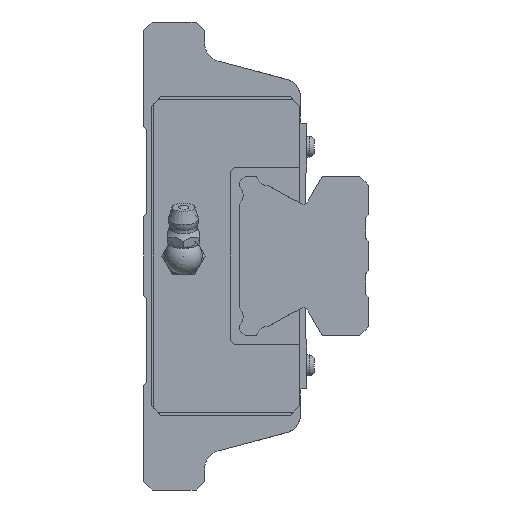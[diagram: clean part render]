
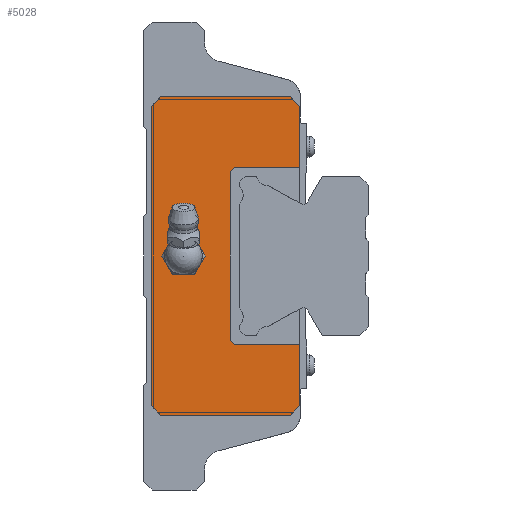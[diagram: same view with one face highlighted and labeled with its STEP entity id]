
A CAD part, left-side view. The second image highlights one B-rep face of the part: STEP entity #5028.
In plain terms, the highlighted planar face has unit normal (-1, 0, 0).
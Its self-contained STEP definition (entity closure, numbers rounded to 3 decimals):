
#118=LINE('',#7606,#582);
#133=LINE('',#7637,#597);
#140=LINE('',#7651,#604);
#144=LINE('',#7658,#608);
#152=LINE('',#7675,#616);
#155=LINE('',#7680,#619);
#163=LINE('',#7692,#627);
#196=LINE('',#7760,#660);
#202=LINE('',#7773,#666);
#345=LINE('',#8158,#809);
#346=LINE('',#8161,#810);
#347=LINE('',#8162,#811);
#348=LINE('',#8164,#812);
#349=LINE('',#8166,#813);
#582=VECTOR('',#5967,1000.);
#597=VECTOR('',#5984,1000.);
#604=VECTOR('',#5995,1000.);
#608=VECTOR('',#6001,1000.);
#616=VECTOR('',#6011,1000.);
#619=VECTOR('',#6016,1000.);
#627=VECTOR('',#6032,1000.);
#660=VECTOR('',#6083,1000.);
#666=VECTOR('',#6091,1000.);
#809=VECTOR('',#6414,1000.);
#810=VECTOR('',#6415,1000.);
#811=VECTOR('',#6416,1000.);
#812=VECTOR('',#6417,1000.);
#813=VECTOR('',#6418,1000.);
#1062=PLANE('',#5411);
#1350=CIRCLE('',#5412,3.);
#2137=ORIENTED_EDGE('',*,*,#3298,.T.);
#2138=ORIENTED_EDGE('',*,*,#3299,.T.);
#2139=ORIENTED_EDGE('',*,*,#3300,.T.);
#2140=ORIENTED_EDGE('',*,*,#3110,.F.);
#2141=ORIENTED_EDGE('',*,*,#3056,.F.);
#2142=ORIENTED_EDGE('',*,*,#3052,.F.);
#2143=ORIENTED_EDGE('',*,*,#3045,.F.);
#2144=ORIENTED_EDGE('',*,*,#3075,.F.);
#2145=ORIENTED_EDGE('',*,*,#3030,.F.);
#2146=ORIENTED_EDGE('',*,*,#3067,.F.);
#2147=ORIENTED_EDGE('',*,*,#3064,.F.);
#2148=ORIENTED_EDGE('',*,*,#3116,.F.);
#2149=ORIENTED_EDGE('',*,*,#3301,.T.);
#2150=ORIENTED_EDGE('',*,*,#3302,.T.);
#2151=ORIENTED_EDGE('',*,*,#3303,.T.);
#3030=EDGE_CURVE('',#3718,#3719,#118,.T.);
#3045=EDGE_CURVE('',#3733,#3734,#133,.T.);
#3052=EDGE_CURVE('',#3734,#3739,#140,.T.);
#3056=EDGE_CURVE('',#3739,#3741,#144,.T.);
#3064=EDGE_CURVE('',#3748,#3749,#152,.T.);
#3067=EDGE_CURVE('',#3749,#3718,#155,.T.);
#3075=EDGE_CURVE('',#3719,#3733,#163,.T.);
#3110=EDGE_CURVE('',#3741,#3776,#196,.T.);
#3116=EDGE_CURVE('',#3781,#3748,#202,.T.);
#3298=EDGE_CURVE('',#3911,#3911,#1350,.T.);
#3299=EDGE_CURVE('',#3912,#3913,#345,.T.);
#3300=EDGE_CURVE('',#3913,#3776,#346,.T.);
#3301=EDGE_CURVE('',#3781,#3914,#347,.T.);
#3302=EDGE_CURVE('',#3914,#3915,#348,.T.);
#3303=EDGE_CURVE('',#3915,#3912,#349,.T.);
#3718=VERTEX_POINT('',#7605);
#3719=VERTEX_POINT('',#7607);
#3733=VERTEX_POINT('',#7636);
#3734=VERTEX_POINT('',#7638);
#3739=VERTEX_POINT('',#7652);
#3741=VERTEX_POINT('',#7659);
#3748=VERTEX_POINT('',#7674);
#3749=VERTEX_POINT('',#7676);
#3776=VERTEX_POINT('',#7761);
#3781=VERTEX_POINT('',#7772);
#3911=VERTEX_POINT('',#8157);
#3912=VERTEX_POINT('',#8159);
#3913=VERTEX_POINT('',#8160);
#3914=VERTEX_POINT('',#8163);
#3915=VERTEX_POINT('',#8165);
#4297=EDGE_LOOP('',(#2137));
#4298=EDGE_LOOP('',(#2138,#2139,#2140,#2141,#2142,#2143,#2144,#2145,#2146,
#2147,#2148,#2149,#2150,#2151));
#4666=FACE_BOUND('',#4297,.T.);
#4667=FACE_BOUND('',#4298,.T.);
#5028=ADVANCED_FACE('',(#4666,#4667),#1062,.F.);
#5411=AXIS2_PLACEMENT_3D('',#8155,#6410,#6411);
#5412=AXIS2_PLACEMENT_3D('',#8156,#6412,#6413);
#5967=DIRECTION('',(0.,0.707,0.707));
#5984=DIRECTION('',(0.,-0.707,0.707));
#5995=DIRECTION('',(0.,-1.,0.));
#6001=DIRECTION('',(0.,-0.707,-0.707));
#6011=DIRECTION('',(0.,0.707,-0.707));
#6016=DIRECTION('',(0.,1.,0.));
#6032=DIRECTION('',(0.,0.,1.));
#6083=DIRECTION('',(0.,0.,-1.));
#6091=DIRECTION('',(0.,0.,-1.));
#6410=DIRECTION('',(1.,0.,0.));
#6411=DIRECTION('',(0.,0.,-1.));
#6412=DIRECTION('',(1.,0.,0.));
#6413=DIRECTION('',(0.,0.,-1.));
#6414=DIRECTION('',(0.,-0.707,0.707));
#6415=DIRECTION('',(0.,-1.,0.));
#6416=DIRECTION('',(0.,1.,0.));
#6417=DIRECTION('',(0.,0.707,0.707));
#6418=DIRECTION('',(0.,0.,1.));
#7605=CARTESIAN_POINT('',(-36.8,32.9,-34.));
#7606=CARTESIAN_POINT('',(-36.8,32.9,-34.));
#7607=CARTESIAN_POINT('',(-36.8,34.9,-32.));
#7636=CARTESIAN_POINT('',(-36.8,34.9,32.));
#7637=CARTESIAN_POINT('',(-36.8,34.9,32.));
#7638=CARTESIAN_POINT('',(-36.8,32.9,34.));
#7651=CARTESIAN_POINT('',(-36.8,32.9,34.));
#7652=CARTESIAN_POINT('',(-36.8,5.1,34.));
#7658=CARTESIAN_POINT('',(-36.8,5.1,34.));
#7659=CARTESIAN_POINT('',(-36.8,3.1,32.));
#7674=CARTESIAN_POINT('',(-36.8,3.1,-32.));
#7675=CARTESIAN_POINT('',(-36.8,3.1,-32.));
#7676=CARTESIAN_POINT('',(-36.8,5.1,-34.));
#7680=CARTESIAN_POINT('',(-36.8,5.1,-34.));
#7692=CARTESIAN_POINT('',(-36.8,34.9,-32.));
#7760=CARTESIAN_POINT('',(-36.8,3.1,32.));
#7761=CARTESIAN_POINT('',(-36.8,3.1,19.));
#7772=CARTESIAN_POINT('',(-36.8,3.1,-19.));
#7773=CARTESIAN_POINT('',(-36.8,3.1,32.));
#8155=CARTESIAN_POINT('',(-36.8,0.,0.));
#8156=CARTESIAN_POINT('',(-36.8,28.,0.));
#8157=CARTESIAN_POINT('',(-36.8,28.,-3.));
#8158=CARTESIAN_POINT('',(-36.8,18.,18.));
#8159=CARTESIAN_POINT('',(-36.8,18.,18.));
#8160=CARTESIAN_POINT('',(-36.8,17.,19.));
#8161=CARTESIAN_POINT('',(-36.8,17.,19.));
#8162=CARTESIAN_POINT('',(-36.8,3.1,-19.));
#8163=CARTESIAN_POINT('',(-36.8,17.,-19.));
#8164=CARTESIAN_POINT('',(-36.8,17.,-19.));
#8165=CARTESIAN_POINT('',(-36.8,18.,-18.));
#8166=CARTESIAN_POINT('',(-36.8,18.,-18.));
